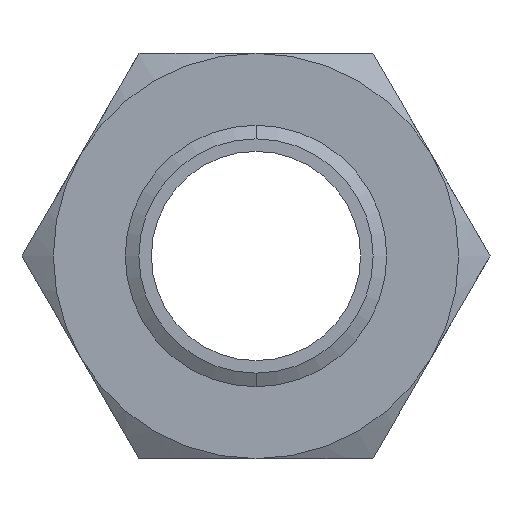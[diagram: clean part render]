
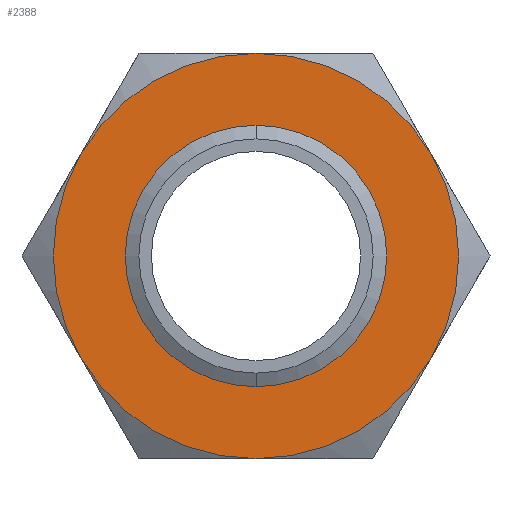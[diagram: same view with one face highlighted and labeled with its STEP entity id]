
A CAD part, front view. The second image highlights one B-rep face of the part: STEP entity #2388.
In plain terms, the highlighted planar face has unit normal (0, -1, 0).
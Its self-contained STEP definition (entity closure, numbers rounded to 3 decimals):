
#174 = ORIENTED_EDGE ( 'NONE', *, *, #249, .F. ) ;
#249 = EDGE_CURVE ( 'NONE', #250, #2350, #777, .T. ) ;
#250 = VERTEX_POINT ( 'NONE', #773 ) ;
#251 = ORIENTED_EDGE ( 'NONE', *, *, #252, .F. ) ;
#252 = EDGE_CURVE ( 'NONE', #253, #250, #772, .T. ) ;
#253 = VERTEX_POINT ( 'NONE', #767 ) ;
#254 = ORIENTED_EDGE ( 'NONE', *, *, #255, .F. ) ;
#255 = EDGE_CURVE ( 'NONE', #256, #253, #766, .T. ) ;
#256 = VERTEX_POINT ( 'NONE', #761 ) ;
#257 = ORIENTED_EDGE ( 'NONE', *, *, #258, .F. ) ;
#258 = EDGE_CURVE ( 'NONE', #2207, #256, #760, .T. ) ;
#259 = EDGE_LOOP ( 'NONE', ( #260, #261 ) ) ;
#260 = ORIENTED_EDGE ( 'NONE', *, *, #2100, .F. ) ;
#261 = ORIENTED_EDGE ( 'NONE', *, *, #262, .F. ) ;
#262 = EDGE_CURVE ( 'NONE', #2085, #2098, #755, .T. ) ;
#716 = CARTESIAN_POINT ( 'NONE',  ( 0., 0., 0. ) ) ;
#751 = DIRECTION ( 'NONE',  ( 0., 0., -1. ) ) ;
#752 = DIRECTION ( 'NONE',  ( 0., -1., 0. ) ) ;
#753 = CARTESIAN_POINT ( 'NONE',  ( 0., 0., 0. ) ) ;
#754 = AXIS2_PLACEMENT_3D ( 'NONE', #753, #752, #751 ) ;
#755 = CIRCLE ( 'NONE', #754, 44.804 ) ;
#756 = DIRECTION ( 'NONE',  ( 0., 0., 1. ) ) ;
#757 = DIRECTION ( 'NONE',  ( 0., 1., 0. ) ) ;
#758 = CARTESIAN_POINT ( 'NONE',  ( 0., 0., 0. ) ) ;
#759 = AXIS2_PLACEMENT_3D ( 'NONE', #758, #757, #756 ) ;
#760 = CIRCLE ( 'NONE', #759, 77.5 ) ;
#761 = CARTESIAN_POINT ( 'NONE',  ( 67.117, 0., -38.75 ) ) ;
#762 = DIRECTION ( 'NONE',  ( 0., 0., 1. ) ) ;
#763 = DIRECTION ( 'NONE',  ( 0., 1., 0. ) ) ;
#764 = CARTESIAN_POINT ( 'NONE',  ( 0., 0., 0. ) ) ;
#765 = AXIS2_PLACEMENT_3D ( 'NONE', #764, #763, #762 ) ;
#766 = CIRCLE ( 'NONE', #765, 77.5 ) ;
#767 = CARTESIAN_POINT ( 'NONE',  ( 0., 0., -77.5 ) ) ;
#768 = DIRECTION ( 'NONE',  ( 0., 0., 1. ) ) ;
#769 = DIRECTION ( 'NONE',  ( 0., 1., 0. ) ) ;
#770 = CARTESIAN_POINT ( 'NONE',  ( 0., 0., 0. ) ) ;
#771 = AXIS2_PLACEMENT_3D ( 'NONE', #770, #769, #768 ) ;
#772 = CIRCLE ( 'NONE', #771, 77.5 ) ;
#773 = CARTESIAN_POINT ( 'NONE',  ( -67.117, 0., -38.75 ) ) ;
#774 = DIRECTION ( 'NONE',  ( 0., 0., 1. ) ) ;
#775 = DIRECTION ( 'NONE',  ( 0., 1., 0. ) ) ;
#776 = AXIS2_PLACEMENT_3D ( 'NONE', #716, #775, #774 ) ;
#777 = CIRCLE ( 'NONE', #776, 77.5 ) ;
#1114 = DIRECTION ( 'NONE',  ( 0., 0., -1. ) ) ;
#1115 = DIRECTION ( 'NONE',  ( 0., -1., 0. ) ) ;
#1116 = CARTESIAN_POINT ( 'NONE',  ( 0., 0., 0. ) ) ;
#1117 = AXIS2_PLACEMENT_3D ( 'NONE', #1116, #1115, #1114 ) ;
#1118 = CIRCLE ( 'NONE', #1117, 44.804 ) ;
#1123 = CARTESIAN_POINT ( 'NONE',  ( 0., 0., -44.804 ) ) ;
#1139 = CARTESIAN_POINT ( 'NONE',  ( 0., 0., 44.804 ) ) ;
#1370 = CARTESIAN_POINT ( 'NONE',  ( 67.117, 0., 38.75 ) ) ;
#1642 = CARTESIAN_POINT ( 'NONE',  ( -67.117, 0., 38.75 ) ) ;
#1661 = DIRECTION ( 'NONE',  ( 0., 1., 0. ) ) ;
#1662 = CARTESIAN_POINT ( 'NONE',  ( 0., 0., 0. ) ) ;
#1663 = AXIS2_PLACEMENT_3D ( 'NONE', #1662, #1661, #1721 ) ;
#1664 = CIRCLE ( 'NONE', #1663, 77.5 ) ;
#1721 = DIRECTION ( 'NONE',  ( 0., 0., 1. ) ) ;
#1740 = DIRECTION ( 'NONE',  ( 0., 0., 1. ) ) ;
#1741 = DIRECTION ( 'NONE',  ( 0., 1., 0. ) ) ;
#1742 = CARTESIAN_POINT ( 'NONE',  ( 0., 0., 0. ) ) ;
#1743 = AXIS2_PLACEMENT_3D ( 'NONE', #1742, #1741, #1740 ) ;
#1744 = DIRECTION ( 'NONE',  ( 0., 0., 1. ) ) ;
#1745 = DIRECTION ( 'NONE',  ( 0., 1., 0. ) ) ;
#1746 = CARTESIAN_POINT ( 'NONE',  ( 44.745, 0., -77.5 ) ) ;
#1747 = CIRCLE ( 'NONE', #1743, 77.5 ) ;
#1748 = AXIS2_PLACEMENT_3D ( 'NONE', #1746, #1745, #1744 ) ;
#1749 = PLANE ( 'NONE',  #1748 ) ;
#1750 = FACE_BOUND ( 'NONE', #259, .T. ) ;
#1751 = FACE_OUTER_BOUND ( 'NONE', #2387, .T. ) ;
#1752 = CARTESIAN_POINT ( 'NONE',  ( 0., 0., 77.5 ) ) ;
#2043 = ORIENTED_EDGE ( 'NONE', *, *, #2373, .F. ) ;
#2085 = VERTEX_POINT ( 'NONE', #1139 ) ;
#2098 = VERTEX_POINT ( 'NONE', #1123 ) ;
#2100 = EDGE_CURVE ( 'NONE', #2098, #2085, #1118, .T. ) ;
#2207 = VERTEX_POINT ( 'NONE', #1370 ) ;
#2350 = VERTEX_POINT ( 'NONE', #1642 ) ;
#2373 = EDGE_CURVE ( 'NONE', #2350, #2386, #1664, .T. ) ;
#2386 = VERTEX_POINT ( 'NONE', #1752 ) ;
#2387 = EDGE_LOOP ( 'NONE', ( #2389, #2043, #174, #251, #254, #257 ) ) ;
#2388 = ADVANCED_FACE ( 'NONE', ( #1751, #1750 ), #1749, .F. ) ;
#2389 = ORIENTED_EDGE ( 'NONE', *, *, #2390, .F. ) ;
#2390 = EDGE_CURVE ( 'NONE', #2386, #2207, #1747, .T. ) ;
